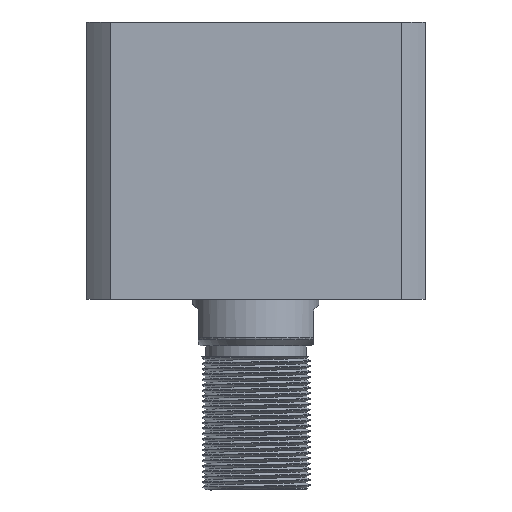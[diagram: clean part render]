
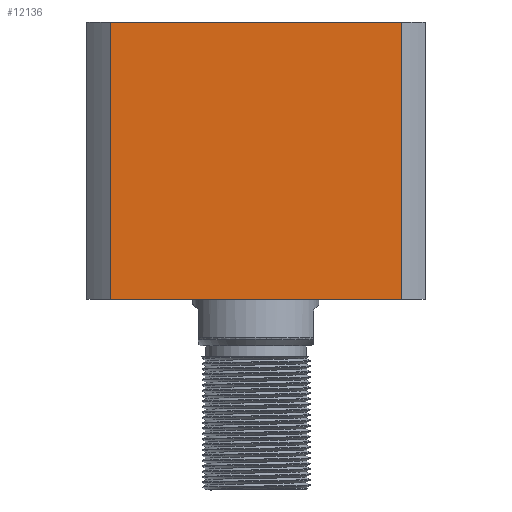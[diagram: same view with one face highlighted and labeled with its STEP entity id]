
A CAD part, front view. The second image highlights one B-rep face of the part: STEP entity #12136.
In plain terms, the highlighted planar face has unit normal (0, -1, 0) as drawn and (0, 1, 0) by its records, which use the part's own axes.
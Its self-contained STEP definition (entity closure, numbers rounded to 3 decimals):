
#1414 = EDGE_CURVE ( 'NONE', #9033, #17352, #19745, .T. ) ;
#2374 = CARTESIAN_POINT ( 'NONE',  ( -40.435, 47., 77. ) ) ;
#2973 = CARTESIAN_POINT ( 'NONE',  ( -40.435, 47., 0. ) ) ;
#3447 = CARTESIAN_POINT ( 'NONE',  ( 40.435, 47., 0. ) ) ;
#5622 = CARTESIAN_POINT ( 'NONE',  ( -47., 47., 0. ) ) ;
#5893 = VECTOR ( 'NONE', #11748, 1000. ) ;
#6297 = ORIENTED_EDGE ( 'NONE', *, *, #1414, .F. ) ;
#6454 = VECTOR ( 'NONE', #21665, 1000. ) ;
#7115 = CARTESIAN_POINT ( 'NONE',  ( 40.435, 47., 77. ) ) ;
#7517 = DIRECTION ( 'NONE',  ( 0., 0., -1. ) ) ;
#8522 = CARTESIAN_POINT ( 'NONE',  ( -40.435, 47., -223. ) ) ;
#8817 = ORIENTED_EDGE ( 'NONE', *, *, #12837, .T. ) ;
#9033 = VERTEX_POINT ( 'NONE', #2374 ) ;
#10560 = VERTEX_POINT ( 'NONE', #7115 ) ;
#10807 = DIRECTION ( 'NONE',  ( 0., 0., -1. ) ) ;
#11331 = CARTESIAN_POINT ( 'NONE',  ( -47., 47., 77. ) ) ;
#11689 = VECTOR ( 'NONE', #17762, 1000. ) ;
#11748 = DIRECTION ( 'NONE',  ( 0., 0., 1. ) ) ;
#12136 = ADVANCED_FACE ( 'NONE', ( #15485 ), #15890, .F. ) ;
#12704 = ORIENTED_EDGE ( 'NONE', *, *, #18681, .F. ) ;
#12837 = EDGE_CURVE ( 'NONE', #14638, #17352, #15738, .T. ) ;
#13492 = CARTESIAN_POINT ( 'NONE',  ( 40.435, 47., -223. ) ) ;
#14638 = VERTEX_POINT ( 'NONE', #3447 ) ;
#15485 = FACE_OUTER_BOUND ( 'NONE', #18679, .T. ) ;
#15655 = LINE ( 'NONE', #13492, #5893 ) ;
#15738 = LINE ( 'NONE', #5622, #11689 ) ;
#15788 = AXIS2_PLACEMENT_3D ( 'NONE', #17477, #21157, #10807 ) ;
#15890 = PLANE ( 'NONE',  #15788 ) ;
#17352 = VERTEX_POINT ( 'NONE', #2973 ) ;
#17477 = CARTESIAN_POINT ( 'NONE',  ( -47., 47., 77. ) ) ;
#17762 = DIRECTION ( 'NONE',  ( -1., 0., 0. ) ) ;
#18679 = EDGE_LOOP ( 'NONE', ( #18946, #8817, #6297, #12704 ) ) ;
#18681 = EDGE_CURVE ( 'NONE', #10560, #9033, #20272, .T. ) ;
#18946 = ORIENTED_EDGE ( 'NONE', *, *, #20620, .F. ) ;
#19198 = VECTOR ( 'NONE', #7517, 1000. ) ;
#19745 = LINE ( 'NONE', #8522, #19198 ) ;
#20272 = LINE ( 'NONE', #11331, #6454 ) ;
#20620 = EDGE_CURVE ( 'NONE', #14638, #10560, #15655, .T. ) ;
#21157 = DIRECTION ( 'NONE',  ( 0., -1., 0. ) ) ;
#21665 = DIRECTION ( 'NONE',  ( -1., 0., 0. ) ) ;
